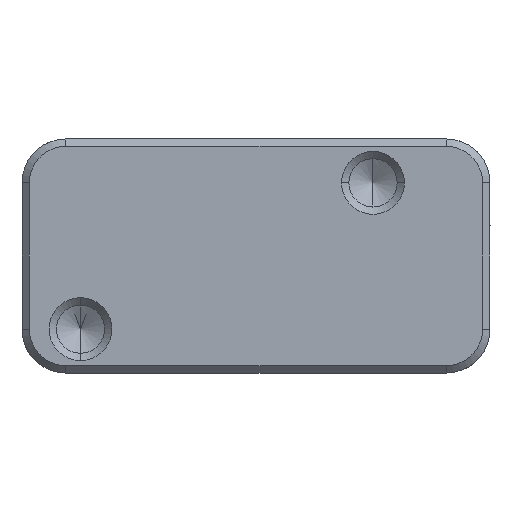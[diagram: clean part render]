
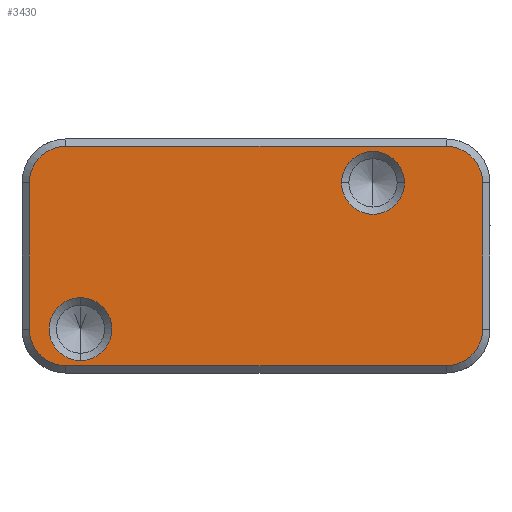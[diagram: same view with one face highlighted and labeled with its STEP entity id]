
A CAD part, front view. The second image highlights one B-rep face of the part: STEP entity #3430.
In plain terms, the highlighted planar face has unit normal (0, -1, 0).
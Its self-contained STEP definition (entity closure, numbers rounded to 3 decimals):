
#258 = CARTESIAN_POINT ( 'NONE',  ( -16., 0., 7.5 ) ) ;
#318 = CARTESIAN_POINT ( 'NONE',  ( -12., 0., -2.85 ) ) ;
#515 = AXIS2_PLACEMENT_3D ( 'NONE', #2213, #10893, #6647 ) ;
#669 = ORIENTED_EDGE ( 'NONE', *, *, #11273, .T. ) ;
#700 = EDGE_CURVE ( 'NONE', #6706, #5379, #11200, .T. ) ;
#750 = CIRCLE ( 'NONE', #6907, 2.5 ) ;
#890 = DIRECTION ( 'NONE',  ( 0., 0., 1. ) ) ;
#929 = VERTEX_POINT ( 'NONE', #6543 ) ;
#990 = VECTOR ( 'NONE', #4608, 1000. ) ;
#1141 = CARTESIAN_POINT ( 'NONE',  ( 13., 0., 5. ) ) ;
#1227 = AXIS2_PLACEMENT_3D ( 'NONE', #3244, #4100, #11939 ) ;
#1239 = CARTESIAN_POINT ( 'NONE',  ( -12., 0., -5. ) ) ;
#1345 = ORIENTED_EDGE ( 'NONE', *, *, #2310, .F. ) ;
#1406 = CARTESIAN_POINT ( 'NONE',  ( 13., 0., -5. ) ) ;
#1435 = AXIS2_PLACEMENT_3D ( 'NONE', #4283, #11825, #10823 ) ;
#1543 = EDGE_LOOP ( 'NONE', ( #1345, #6359, #4852, #10683, #8564, #3207, #8989, #13629 ) ) ;
#1546 = LINE ( 'NONE', #258, #990 ) ;
#1593 = VERTEX_POINT ( 'NONE', #13456 ) ;
#1657 = VECTOR ( 'NONE', #890, 1000. ) ;
#1826 = VERTEX_POINT ( 'NONE', #8770 ) ;
#1897 = VECTOR ( 'NONE', #5584, 1000. ) ;
#2027 = LINE ( 'NONE', #10569, #1657 ) ;
#2163 = EDGE_CURVE ( 'NONE', #7283, #13395, #11215, .T. ) ;
#2213 = CARTESIAN_POINT ( 'NONE',  ( 8., 0., 5. ) ) ;
#2223 = EDGE_CURVE ( 'NONE', #7310, #3522, #1546, .T. ) ;
#2280 = DIRECTION ( 'NONE',  ( 0., 0., 1. ) ) ;
#2310 = EDGE_CURVE ( 'NONE', #13395, #929, #8998, .T. ) ;
#2336 = DIRECTION ( 'NONE',  ( 0., 0., 1. ) ) ;
#2533 = CARTESIAN_POINT ( 'NONE',  ( -16., 0., -8. ) ) ;
#2594 = VECTOR ( 'NONE', #3535, 1000. ) ;
#2621 = DIRECTION ( 'NONE',  ( 0., 1., 0. ) ) ;
#2671 = LINE ( 'NONE', #4738, #2594 ) ;
#3033 = CARTESIAN_POINT ( 'NONE',  ( 10.15, 0., 5. ) ) ;
#3207 = ORIENTED_EDGE ( 'NONE', *, *, #13607, .T. ) ;
#3244 = CARTESIAN_POINT ( 'NONE',  ( 8., 0., 5. ) ) ;
#3281 = CIRCLE ( 'NONE', #13954, 2.15 ) ;
#3282 = CARTESIAN_POINT ( 'NONE',  ( -12., 0., -7.15 ) ) ;
#3295 = CARTESIAN_POINT ( 'NONE',  ( 13., 0., 7.5 ) ) ;
#3381 = EDGE_CURVE ( 'NONE', #1593, #9665, #2671, .T. ) ;
#3430 = ADVANCED_FACE ( 'NONE', ( #13413, #12285, #6820 ), #6754, .T. ) ;
#3495 = CIRCLE ( 'NONE', #1435, 2.15 ) ;
#3505 = AXIS2_PLACEMENT_3D ( 'NONE', #10739, #9884, #2336 ) ;
#3522 = VERTEX_POINT ( 'NONE', #7090 ) ;
#3535 = DIRECTION ( 'NONE',  ( 0., 0., -1. ) ) ;
#3607 = EDGE_LOOP ( 'NONE', ( #6274, #10877 ) ) ;
#3699 = EDGE_CURVE ( 'NONE', #8439, #5808, #3281, .T. ) ;
#4004 = DIRECTION ( 'NONE',  ( 0., -1., 0. ) ) ;
#4100 = DIRECTION ( 'NONE',  ( 0., 1., 0. ) ) ;
#4170 = AXIS2_PLACEMENT_3D ( 'NONE', #1406, #2621, #12435 ) ;
#4283 = CARTESIAN_POINT ( 'NONE',  ( -12., 0., -5. ) ) ;
#4286 = CARTESIAN_POINT ( 'NONE',  ( 15.5, 0., -5. ) ) ;
#4608 = DIRECTION ( 'NONE',  ( -1., 0., 0. ) ) ;
#4738 = CARTESIAN_POINT ( 'NONE',  ( -15.5, 0., -8. ) ) ;
#4852 = ORIENTED_EDGE ( 'NONE', *, *, #5651, .T. ) ;
#4999 = DIRECTION ( 'NONE',  ( 0., 0., 1. ) ) ;
#5096 = EDGE_CURVE ( 'NONE', #1826, #7310, #750, .T. ) ;
#5379 = VERTEX_POINT ( 'NONE', #7616 ) ;
#5584 = DIRECTION ( 'NONE',  ( -1., 0., 0. ) ) ;
#5651 = EDGE_CURVE ( 'NONE', #7283, #1826, #2027, .T. ) ;
#5808 = VERTEX_POINT ( 'NONE', #318 ) ;
#6274 = ORIENTED_EDGE ( 'NONE', *, *, #700, .T. ) ;
#6359 = ORIENTED_EDGE ( 'NONE', *, *, #2163, .F. ) ;
#6543 = CARTESIAN_POINT ( 'NONE',  ( -13., 0., -7.5 ) ) ;
#6647 = DIRECTION ( 'NONE',  ( 1., 0., 0. ) ) ;
#6680 = EDGE_CURVE ( 'NONE', #5379, #6706, #8961, .T. ) ;
#6706 = VERTEX_POINT ( 'NONE', #3033 ) ;
#6710 = AXIS2_PLACEMENT_3D ( 'NONE', #7006, #12541, #4999 ) ;
#6754 = PLANE ( 'NONE',  #10530 ) ;
#6820 = FACE_BOUND ( 'NONE', #3607, .T. ) ;
#6885 = DIRECTION ( 'NONE',  ( 0., -1., 0. ) ) ;
#6907 = AXIS2_PLACEMENT_3D ( 'NONE', #1141, #4004, #2280 ) ;
#6927 = CIRCLE ( 'NONE', #6710, 2.5 ) ;
#7006 = CARTESIAN_POINT ( 'NONE',  ( -13., 0., 5. ) ) ;
#7055 = DIRECTION ( 'NONE',  ( 0., 0., -1. ) ) ;
#7090 = CARTESIAN_POINT ( 'NONE',  ( -13., 0., 7.5 ) ) ;
#7283 = VERTEX_POINT ( 'NONE', #4286 ) ;
#7310 = VERTEX_POINT ( 'NONE', #3295 ) ;
#7440 = CARTESIAN_POINT ( 'NONE',  ( -15.5, 0., -5. ) ) ;
#7616 = CARTESIAN_POINT ( 'NONE',  ( 5.85, 0., 5. ) ) ;
#7706 = EDGE_LOOP ( 'NONE', ( #10676, #669 ) ) ;
#8439 = VERTEX_POINT ( 'NONE', #3282 ) ;
#8564 = ORIENTED_EDGE ( 'NONE', *, *, #2223, .T. ) ;
#8770 = CARTESIAN_POINT ( 'NONE',  ( 15.5, 0., 5. ) ) ;
#8961 = CIRCLE ( 'NONE', #1227, 2.15 ) ;
#8989 = ORIENTED_EDGE ( 'NONE', *, *, #3381, .T. ) ;
#8998 = LINE ( 'NONE', #13180, #1897 ) ;
#9665 = VERTEX_POINT ( 'NONE', #7440 ) ;
#9884 = DIRECTION ( 'NONE',  ( 0., 1., 0. ) ) ;
#10312 = CIRCLE ( 'NONE', #3505, 2.5 ) ;
#10530 = AXIS2_PLACEMENT_3D ( 'NONE', #2533, #6885, #11076 ) ;
#10569 = CARTESIAN_POINT ( 'NONE',  ( 15.5, 0., -8. ) ) ;
#10676 = ORIENTED_EDGE ( 'NONE', *, *, #3699, .T. ) ;
#10683 = ORIENTED_EDGE ( 'NONE', *, *, #5096, .T. ) ;
#10739 = CARTESIAN_POINT ( 'NONE',  ( -13., 0., -5. ) ) ;
#10769 = CARTESIAN_POINT ( 'NONE',  ( 13., 0., -7.5 ) ) ;
#10823 = DIRECTION ( 'NONE',  ( 0., 0., -1. ) ) ;
#10877 = ORIENTED_EDGE ( 'NONE', *, *, #6680, .T. ) ;
#10893 = DIRECTION ( 'NONE',  ( 0., 1., 0. ) ) ;
#11076 = DIRECTION ( 'NONE',  ( 0., 0., -1. ) ) ;
#11200 = CIRCLE ( 'NONE', #515, 2.15 ) ;
#11215 = CIRCLE ( 'NONE', #4170, 2.5 ) ;
#11273 = EDGE_CURVE ( 'NONE', #5808, #8439, #3495, .T. ) ;
#11825 = DIRECTION ( 'NONE',  ( 0., 1., 0. ) ) ;
#11907 = EDGE_CURVE ( 'NONE', #929, #9665, #10312, .T. ) ;
#11939 = DIRECTION ( 'NONE',  ( 1., 0., 0. ) ) ;
#12285 = FACE_BOUND ( 'NONE', #7706, .T. ) ;
#12435 = DIRECTION ( 'NONE',  ( 0., 0., 1. ) ) ;
#12541 = DIRECTION ( 'NONE',  ( 0., -1., 0. ) ) ;
#13180 = CARTESIAN_POINT ( 'NONE',  ( -16., 0., -7.5 ) ) ;
#13395 = VERTEX_POINT ( 'NONE', #10769 ) ;
#13413 = FACE_OUTER_BOUND ( 'NONE', #1543, .T. ) ;
#13444 = DIRECTION ( 'NONE',  ( 0., 1., 0. ) ) ;
#13456 = CARTESIAN_POINT ( 'NONE',  ( -15.5, 0., 5. ) ) ;
#13607 = EDGE_CURVE ( 'NONE', #3522, #1593, #6927, .T. ) ;
#13629 = ORIENTED_EDGE ( 'NONE', *, *, #11907, .F. ) ;
#13954 = AXIS2_PLACEMENT_3D ( 'NONE', #1239, #13444, #7055 ) ;
